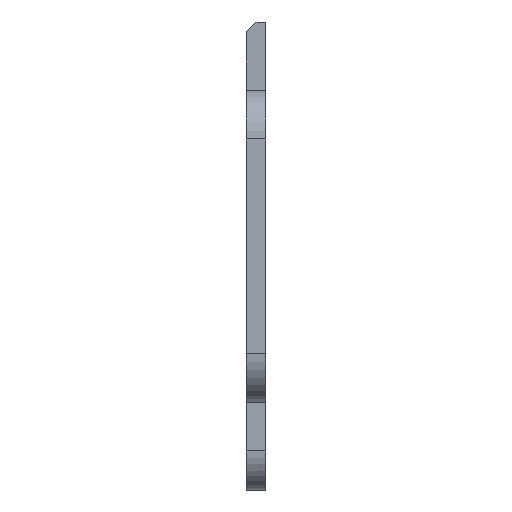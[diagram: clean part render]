
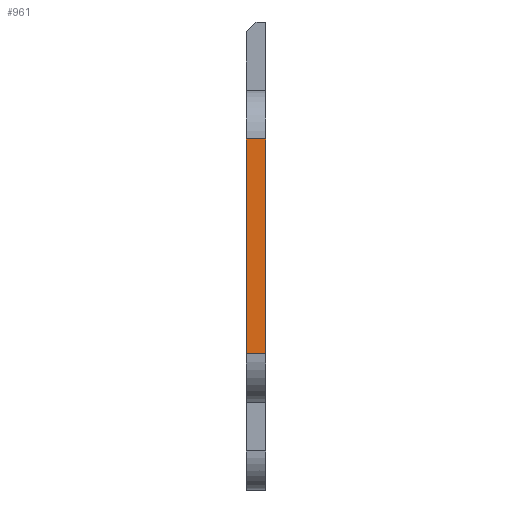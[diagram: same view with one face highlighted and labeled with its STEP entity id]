
A CAD part, left-side view. The second image highlights one B-rep face of the part: STEP entity #961.
In plain terms, the highlighted planar face has unit normal (-1, 0, 0).
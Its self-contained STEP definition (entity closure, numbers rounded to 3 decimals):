
#79 = EDGE_CURVE ( 'NONE', #439, #1037, #215, .T. ) ;
#201 = LINE ( 'NONE', #295, #660 ) ;
#215 = LINE ( 'NONE', #1072, #225 ) ;
#217 = ORIENTED_EDGE ( 'NONE', *, *, #280, .T. ) ;
#225 = VECTOR ( 'NONE', #794, 1000. ) ;
#258 = LINE ( 'NONE', #675, #346 ) ;
#280 = EDGE_CURVE ( 'NONE', #1037, #830, #258, .T. ) ;
#295 = CARTESIAN_POINT ( 'NONE',  ( -335., 10., 0. ) ) ;
#346 = VECTOR ( 'NONE', #755, 1000. ) ;
#361 = PLANE ( 'NONE',  #903 ) ;
#418 = EDGE_CURVE ( 'NONE', #439, #892, #201, .T. ) ;
#439 = VERTEX_POINT ( 'NONE', #605 ) ;
#446 = CARTESIAN_POINT ( 'NONE',  ( -335., 0., 55. ) ) ;
#455 = FACE_OUTER_BOUND ( 'NONE', #1028, .T. ) ;
#460 = DIRECTION ( 'NONE',  ( 1., 0., 0. ) ) ;
#477 = CARTESIAN_POINT ( 'NONE',  ( -335., 10., 55. ) ) ;
#485 = EDGE_CURVE ( 'NONE', #892, #830, #1071, .T. ) ;
#498 = CARTESIAN_POINT ( 'NONE',  ( -335., 10., 55. ) ) ;
#556 = ORIENTED_EDGE ( 'NONE', *, *, #418, .F. ) ;
#605 = CARTESIAN_POINT ( 'NONE',  ( -335., 10., -55. ) ) ;
#660 = VECTOR ( 'NONE', #793, 1000. ) ;
#675 = CARTESIAN_POINT ( 'NONE',  ( -335., 0., 0. ) ) ;
#753 = DIRECTION ( 'NONE',  ( 0., 0., -1. ) ) ;
#755 = DIRECTION ( 'NONE',  ( 0., 0., 1. ) ) ;
#772 = ORIENTED_EDGE ( 'NONE', *, *, #485, .F. ) ;
#793 = DIRECTION ( 'NONE',  ( 0., 0., 1. ) ) ;
#794 = DIRECTION ( 'NONE',  ( 0., -1., 0. ) ) ;
#829 = CARTESIAN_POINT ( 'NONE',  ( -335., 0., -55. ) ) ;
#830 = VERTEX_POINT ( 'NONE', #446 ) ;
#847 = CARTESIAN_POINT ( 'NONE',  ( -335., 10., 0. ) ) ;
#892 = VERTEX_POINT ( 'NONE', #477 ) ;
#903 = AXIS2_PLACEMENT_3D ( 'NONE', #847, #460, #753 ) ;
#961 = ADVANCED_FACE ( 'NONE', ( #455 ), #361, .F. ) ;
#967 = DIRECTION ( 'NONE',  ( 0., -1., 0. ) ) ;
#1028 = EDGE_LOOP ( 'NONE', ( #217, #772, #556, #1125 ) ) ;
#1037 = VERTEX_POINT ( 'NONE', #829 ) ;
#1071 = LINE ( 'NONE', #498, #1200 ) ;
#1072 = CARTESIAN_POINT ( 'NONE',  ( -335., 10., -55. ) ) ;
#1125 = ORIENTED_EDGE ( 'NONE', *, *, #79, .T. ) ;
#1200 = VECTOR ( 'NONE', #967, 1000. ) ;
